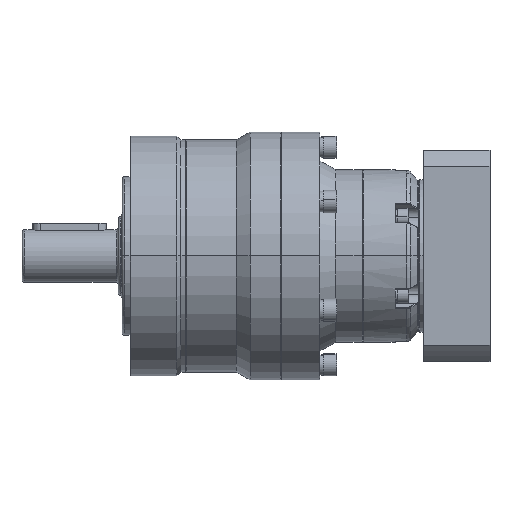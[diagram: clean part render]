
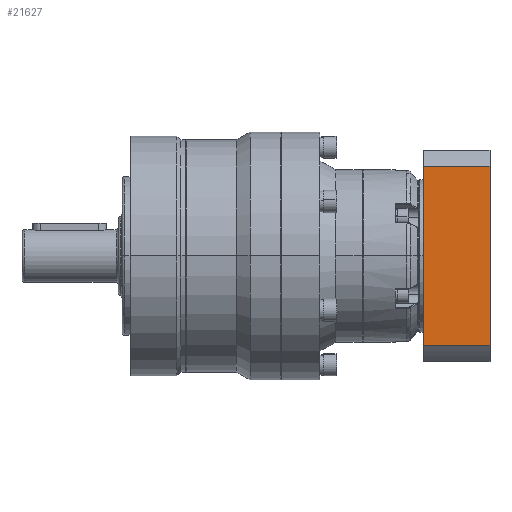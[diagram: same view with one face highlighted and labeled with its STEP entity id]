
A CAD part, top view. The second image highlights one B-rep face of the part: STEP entity #21627.
In plain terms, the highlighted planar face has unit normal (0, 0, 1) as drawn and (0, 0, -1) by its records, which use the part's own axes.
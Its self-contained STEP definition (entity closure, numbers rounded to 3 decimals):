
#1086 = VECTOR ( 'NONE', #24886, 1000. ) ;
#2862 = LINE ( 'NONE', #35875, #4127 ) ;
#4127 = VECTOR ( 'NONE', #35921, 1000. ) ;
#4585 = CARTESIAN_POINT ( 'NONE',  ( 5.8, -34.004, -40. ) ) ;
#5034 = EDGE_CURVE ( 'NONE', #35062, #10659, #28759, .T. ) ;
#6517 = AXIS2_PLACEMENT_3D ( 'NONE', #17688, #17681, #17627 ) ;
#6963 = EDGE_CURVE ( 'NONE', #10659, #37120, #2862, .T. ) ;
#7947 = VECTOR ( 'NONE', #29552, 1000. ) ;
#9704 = LINE ( 'NONE', #29795, #7947 ) ;
#9800 = CARTESIAN_POINT ( 'NONE',  ( 5.8, 34.004, -40. ) ) ;
#10659 = VERTEX_POINT ( 'NONE', #4585 ) ;
#11016 = EDGE_CURVE ( 'NONE', #35062, #43239, #30528, .T. ) ;
#11695 = CARTESIAN_POINT ( 'NONE',  ( -107.337, 34.004, -40. ) ) ;
#17627 = DIRECTION ( 'NONE',  ( -1., 0., 0. ) ) ;
#17681 = DIRECTION ( 'NONE',  ( 0., 0., -1. ) ) ;
#17688 = CARTESIAN_POINT ( 'NONE',  ( -107.337, -34.004, -40. ) ) ;
#18030 = PLANE ( 'NONE',  #6517 ) ;
#19347 = CARTESIAN_POINT ( 'NONE',  ( 31., -34.004, -40. ) ) ;
#21163 = EDGE_CURVE ( 'NONE', #43239, #37120, #9704, .T. ) ;
#21627 = ADVANCED_FACE ( 'NONE', ( #44076 ), #18030, .T. ) ;
#24886 = DIRECTION ( 'NONE',  ( 0., -1., 0. ) ) ;
#26677 = CARTESIAN_POINT ( 'NONE',  ( 5.8, -39.5, -40. ) ) ;
#28759 = LINE ( 'NONE', #26677, #1086 ) ;
#29552 = DIRECTION ( 'NONE',  ( 0., -1., 0. ) ) ;
#29622 = ORIENTED_EDGE ( 'NONE', *, *, #5034, .F. ) ;
#29795 = CARTESIAN_POINT ( 'NONE',  ( 31., -34.004, -40. ) ) ;
#30528 = LINE ( 'NONE', #11695, #39283 ) ;
#32511 = DIRECTION ( 'NONE',  ( 1., 0., 0. ) ) ;
#35003 = ORIENTED_EDGE ( 'NONE', *, *, #6963, .F. ) ;
#35062 = VERTEX_POINT ( 'NONE', #9800 ) ;
#35875 = CARTESIAN_POINT ( 'NONE',  ( -107.337, -34.004, -40. ) ) ;
#35921 = DIRECTION ( 'NONE',  ( 1., 0., 0. ) ) ;
#37120 = VERTEX_POINT ( 'NONE', #19347 ) ;
#39283 = VECTOR ( 'NONE', #32511, 1000. ) ;
#39582 = CARTESIAN_POINT ( 'NONE',  ( 31., 34.004, -40. ) ) ;
#41304 = EDGE_LOOP ( 'NONE', ( #46151, #42679, #35003, #29622 ) ) ;
#42679 = ORIENTED_EDGE ( 'NONE', *, *, #21163, .T. ) ;
#43239 = VERTEX_POINT ( 'NONE', #39582 ) ;
#44076 = FACE_OUTER_BOUND ( 'NONE', #41304, .T. ) ;
#46151 = ORIENTED_EDGE ( 'NONE', *, *, #11016, .T. ) ;
